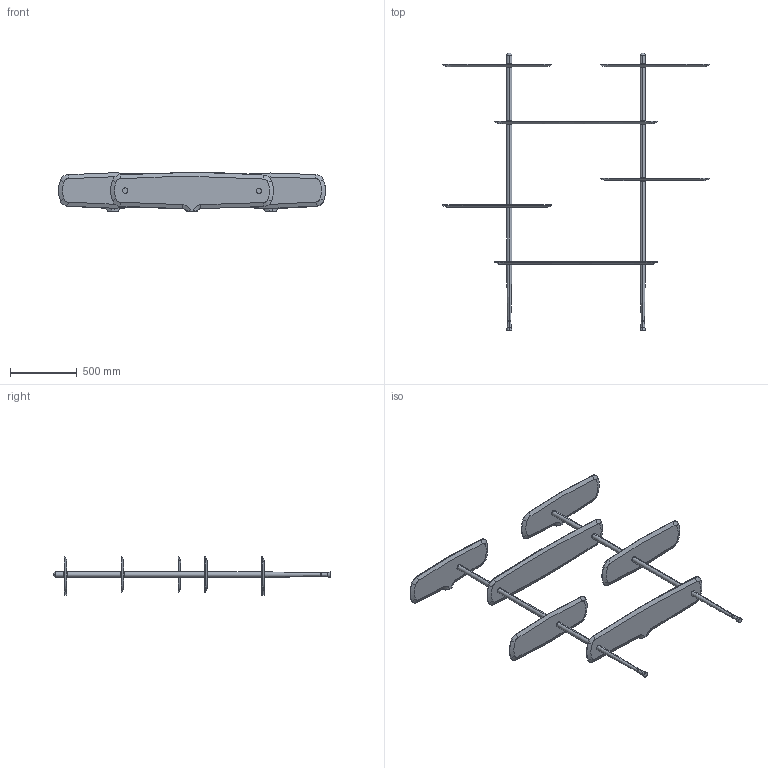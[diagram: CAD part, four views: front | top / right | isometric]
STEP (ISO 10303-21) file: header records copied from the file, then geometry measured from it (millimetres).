
FILE_DESCRIPTION (( 'STEP AP214' ), '1' );
FILE_NAME ('AXIS 2.STEP', '2025-07-23T11:19:05', ( '' ), ( '' ), 'SwSTEP 2.0', 'SolidWorks 2016', '' );
FILE_SCHEMA (( 'AUTOMOTIVE_DESIGN' ));
Length unit declared in the file: millimetre
Products named in the file (41): ARANDELA LATÓN; BALDA_S_FIX_CENTRAL_RIGHT_DM; TRAMO_40; AXIS 2; TRAMO_60; BALDA_S_FIX_CENTRAL_LEFT_DM; BALDA_M_FIX_DM (100); BASE_50; BALDA_S_AIR_MOVIL_DM; TERMINAL; BALDA_M_DM (100)
Assembly tree (30 placements, depth 2):
  ARANDELA LATÓN
  BALDA_S_FIX_CENTRAL_RIGHT_DM
  TRAMO_40
  AXIS 2
    ARANDELA LATÓN  x14
    TRAMO_40  x4
    BALDA_S_AIR_MOVIL_DM  x2
    BASE_50  x2
    TRAMO_60  x2
    BALDA_M_DM (100)
    TERMINAL  x2
    BALDA_M_FIX_DM (100)
    BALDA_S_FIX_CENTRAL_LEFT_DM
    BALDA_S_FIX_CENTRAL_RIGHT_DM
  ARANDELA LATÓN
Bounding box: 1998.98 x 2080 x 291.88 mm (x, y, z)
Volume: 27508542.7 mm3; surface area: 3499690.4 mm2
Topology: 30 solids, 30 shells, 345 faces, 751 edges, 466 vertices
Faces by surface type: cylinder 162, plane 79, cone 62, bspline 30, torus 8, sphere 4
Entity records: 9570 total; most frequent: CARTESIAN_POINT 3037, DIRECTION 918, ORIENTED_EDGE 826, EDGE_CURVE 413, AXIS2_PLACEMENT_3D 388, VERTEX_POINT 257, EDGE_LOOP 204, CIRCLE 198
